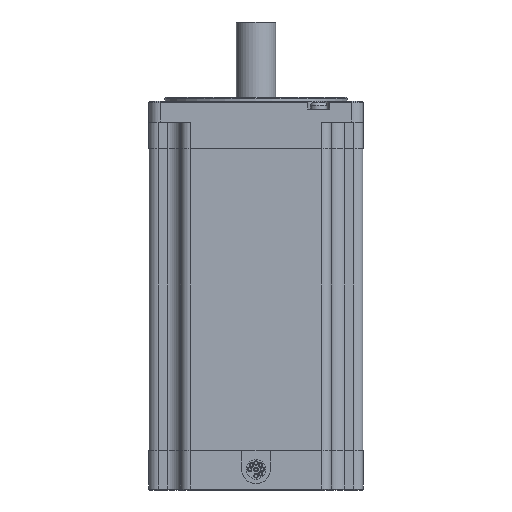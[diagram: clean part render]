
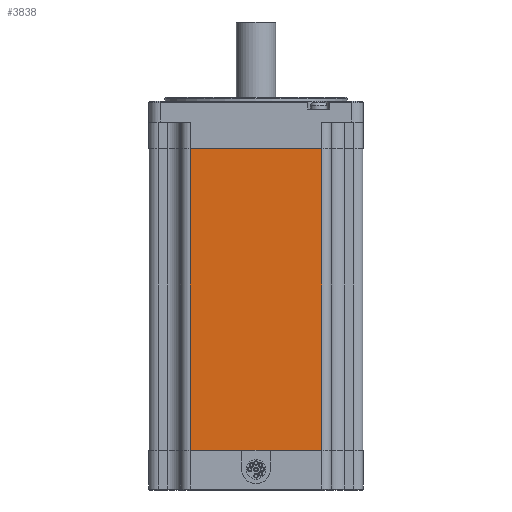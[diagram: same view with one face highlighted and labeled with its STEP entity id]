
A CAD part, front view. The second image highlights one B-rep face of the part: STEP entity #3838.
In plain terms, the highlighted planar face has unit normal (0, -1, 0).
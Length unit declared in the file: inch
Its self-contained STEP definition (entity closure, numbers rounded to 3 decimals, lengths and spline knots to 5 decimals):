
#3838 = ADVANCED_FACE ( 'NONE', ( #9152 ), #9156, .F. ) ;
#3865 = ORIENTED_EDGE ( 'NONE', *, *, #3877, .F. ) ;
#3874 = EDGE_CURVE ( 'NONE', #4006, #13269, #9244, .T. ) ;
#3877 = EDGE_CURVE ( 'NONE', #3987, #5805, #9228, .T. ) ;
#3967 = ORIENTED_EDGE ( 'NONE', *, *, #3874, .T. ) ;
#3968 = EDGE_LOOP ( 'NONE', ( #4007, #3865, #4002, #3967 ) ) ;
#3987 = VERTEX_POINT ( 'NONE', #9357 ) ;
#4002 = ORIENTED_EDGE ( 'NONE', *, *, #4008, .F. ) ;
#4006 = VERTEX_POINT ( 'NONE', #9380 ) ;
#4007 = ORIENTED_EDGE ( 'NONE', *, *, #4985, .T. ) ;
#4008 = EDGE_CURVE ( 'NONE', #4006, #3987, #9377, .T. ) ;
#4985 = EDGE_CURVE ( 'NONE', #13269, #5805, #11317, .T. ) ;
#5805 = VERTEX_POINT ( 'NONE', #11314 ) ;
#9152 = FACE_OUTER_BOUND ( 'NONE', #3968, .T. ) ;
#9156 = PLANE ( 'NONE',  #9161 ) ;
#9161 = AXIS2_PLACEMENT_3D ( 'NONE', #9185, #9184, #9183 ) ;
#9183 = DIRECTION ( 'NONE',  ( -1., 0., 0. ) ) ;
#9184 = DIRECTION ( 'NONE',  ( 0., 1., 0. ) ) ;
#9185 = CARTESIAN_POINT ( 'NONE',  ( 1.04, -1.689, -5.515 ) ) ;
#9218 = DIRECTION ( 'NONE',  ( 0., 0., 1. ) ) ;
#9219 = VECTOR ( 'NONE', #9218, 39.37008 ) ;
#9223 = DIRECTION ( 'NONE',  ( 0., 0., 1. ) ) ;
#9224 = VECTOR ( 'NONE', #9223, 39.37008 ) ;
#9227 = CARTESIAN_POINT ( 'NONE',  ( -1.04, -1.689, -5.515 ) ) ;
#9228 = LINE ( 'NONE', #9227, #9219 ) ;
#9243 = CARTESIAN_POINT ( 'NONE',  ( 1.04, -1.689, -5.515 ) ) ;
#9244 = LINE ( 'NONE', #9243, #9224 ) ;
#9352 = CARTESIAN_POINT ( 'NONE',  ( 1.04, -1.689, -5.515 ) ) ;
#9357 = CARTESIAN_POINT ( 'NONE',  ( -1.04, -1.689, -5.515 ) ) ;
#9372 = DIRECTION ( 'NONE',  ( -1., 0., 0. ) ) ;
#9373 = VECTOR ( 'NONE', #9372, 39.37008 ) ;
#9377 = LINE ( 'NONE', #9352, #9373 ) ;
#9380 = CARTESIAN_POINT ( 'NONE',  ( 1.04, -1.689, -5.515 ) ) ;
#11304 = DIRECTION ( 'NONE',  ( -1., 0., 0. ) ) ;
#11305 = VECTOR ( 'NONE', #11304, 39.37008 ) ;
#11307 = CARTESIAN_POINT ( 'NONE',  ( 1.04, -1.689, -0.75 ) ) ;
#11314 = CARTESIAN_POINT ( 'NONE',  ( -1.04, -1.689, -0.75 ) ) ;
#11317 = LINE ( 'NONE', #11307, #11305 ) ;
#12257 = CARTESIAN_POINT ( 'NONE',  ( 1.04, -1.689, -0.75 ) ) ;
#13269 = VERTEX_POINT ( 'NONE', #12257 ) ;
